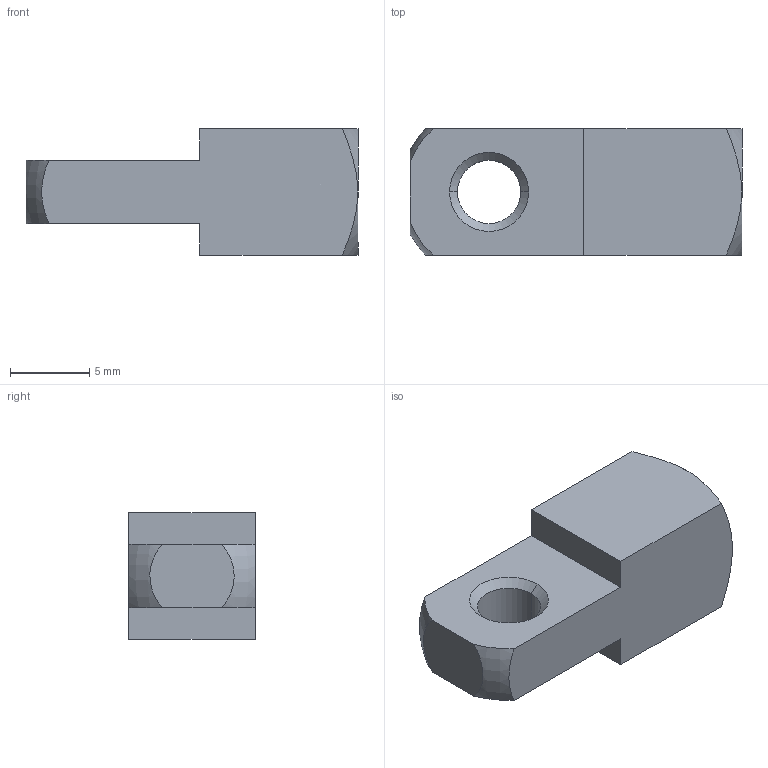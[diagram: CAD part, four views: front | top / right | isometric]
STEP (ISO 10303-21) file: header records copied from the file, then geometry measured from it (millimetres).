
FILE_DESCRIPTION (( 'STEP AP203' ), '1' );
FILE_NAME ('65653.W1004.step', '2014-01-22T12:15:59', ( 'User' ), ( '' ), 'SwSTEP 2.0', 'SolidWorks 2009', '' );
FILE_SCHEMA (( 'CONFIG_CONTROL_DESIGN' ));
Length unit declared in the file: millimetre
Products named in the file (1): 65653.W1004
Bounding box: 21 x 8 x 8 mm (x, y, z)
Volume: 830.6 mm3; surface area: 804.6 mm2
Topology: 1 solids, 1 shells, 31 faces, 74 edges, 45 vertices
Faces by surface type: cone 12, plane 11, cylinder 6, torus 2
Entity records: 1043 total; most frequent: CARTESIAN_POINT 253, DIRECTION 152, ORIENTED_EDGE 144, EDGE_CURVE 72, AXIS2_PLACEMENT_3D 60, VERTEX_POINT 45, EDGE_LOOP 35, LINE 32
